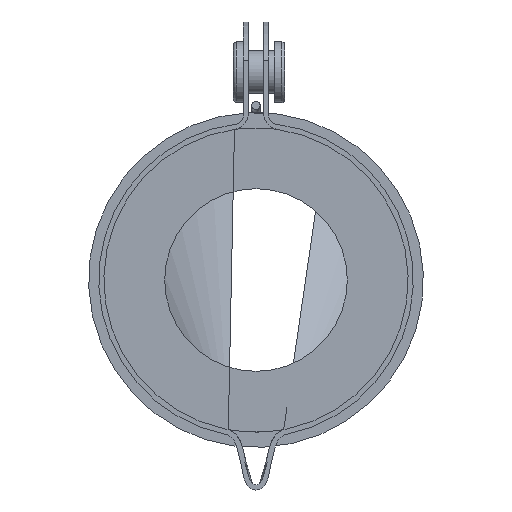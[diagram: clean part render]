
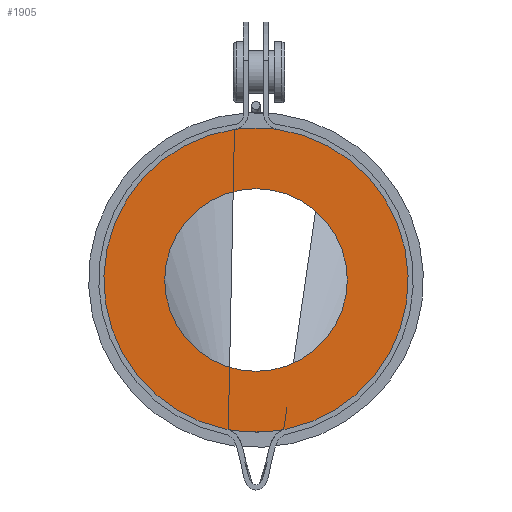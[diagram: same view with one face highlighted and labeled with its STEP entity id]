
A CAD part, front view. The second image highlights one B-rep face of the part: STEP entity #1905.
In plain terms, the highlighted planar face has unit normal (0, -1, 0).
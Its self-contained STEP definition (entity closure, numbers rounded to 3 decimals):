
#48=LINE($,#3117,#124);
#49=LINE($,#3124,#125);
#124=VECTOR($,#2494,0.099);
#125=VECTOR($,#2501,0.099);
#199=B_SPLINE_CURVE_WITH_KNOTS($,3,(#3105,#3106,#3107,#3108),
 .UNSPECIFIED.,.F.,.F.,(4,4),(0.,0.018),.UNSPECIFIED.);
#200=B_SPLINE_CURVE_WITH_KNOTS($,3,(#3112,#3113,#3114,#3115),
 .UNSPECIFIED.,.F.,.F.,(4,4),(0.126,0.143),
 .UNSPECIFIED.);
#295=FACE_BOUND($,#607,.T.);
#434=FACE_OUTER_BOUND($,#606,.T.);
#606=EDGE_LOOP($,(#1357,#1358,#1359,#1360,#1361,#1362,#1363,#1364));
#607=EDGE_LOOP($,(#1365));
#758=CIRCLE($,#2101,9.);
#763=CIRCLE($,#2108,15.);
#764=CIRCLE($,#2109,15.);
#765=CIRCLE($,#2110,15.);
#766=CIRCLE($,#2111,15.);
#887=VERTEX_POINT($,#3077);
#896=VERTEX_POINT($,#3103);
#897=VERTEX_POINT($,#3104);
#898=VERTEX_POINT($,#3109);
#899=VERTEX_POINT($,#3111);
#900=VERTEX_POINT($,#3116);
#901=VERTEX_POINT($,#3118);
#902=VERTEX_POINT($,#3120);
#903=VERTEX_POINT($,#3122);
#1065=EDGE_CURVE($,#887,#887,#758,.T.);
#1074=EDGE_CURVE($,#896,#897,#199,.T.);
#1075=EDGE_CURVE($,#897,#898,#763,.T.);
#1076=EDGE_CURVE($,#898,#899,#200,.T.);
#1077=EDGE_CURVE($,#899,#900,#48,.T.);
#1078=EDGE_CURVE($,#900,#901,#764,.T.);
#1079=EDGE_CURVE($,#901,#902,#765,.T.);
#1080=EDGE_CURVE($,#902,#903,#766,.T.);
#1081=EDGE_CURVE($,#903,#896,#49,.T.);
#1357=ORIENTED_EDGE($,*,*,#1074,.T.);
#1358=ORIENTED_EDGE($,*,*,#1075,.T.);
#1359=ORIENTED_EDGE($,*,*,#1076,.T.);
#1360=ORIENTED_EDGE($,*,*,#1077,.T.);
#1361=ORIENTED_EDGE($,*,*,#1078,.T.);
#1362=ORIENTED_EDGE($,*,*,#1079,.T.);
#1363=ORIENTED_EDGE($,*,*,#1080,.T.);
#1364=ORIENTED_EDGE($,*,*,#1081,.T.);
#1365=ORIENTED_EDGE($,*,*,#1065,.T.);
#1695=PLANE($,#2107);
#1905=ADVANCED_FACE($,(#434,#295),#1695,.T.);
#2101=AXIS2_PLACEMENT_3D($,#3078,#2476,#2477);
#2107=AXIS2_PLACEMENT_3D($,#3102,#2490,#2491);
#2108=AXIS2_PLACEMENT_3D($,#3110,#2492,#2493);
#2109=AXIS2_PLACEMENT_3D($,#3119,#2495,#2496);
#2110=AXIS2_PLACEMENT_3D($,#3121,#2497,#2498);
#2111=AXIS2_PLACEMENT_3D($,#3123,#2499,#2500);
#2476=DIRECTION('center_axis',(0.,1.,0.));
#2477=DIRECTION('ref_axis',(1.,0.,0.));
#2490=DIRECTION('center_axis',(0.,-1.,0.));
#2491=DIRECTION('ref_axis',(0.,0.,-1.));
#2492=DIRECTION('center_axis',(0.,-1.,0.));
#2493=DIRECTION('ref_axis',(1.,0.,0.));
#2494=DIRECTION($,(0.995,0.,0.097));
#2495=DIRECTION('center_axis',(0.,-1.,0.));
#2496=DIRECTION('ref_axis',(1.,0.,0.));
#2497=DIRECTION('center_axis',(0.,-1.,0.));
#2498=DIRECTION('ref_axis',(1.,0.,0.));
#2499=DIRECTION('center_axis',(0.,-1.,0.));
#2500=DIRECTION('ref_axis',(1.,0.,0.));
#2501=DIRECTION($,(0.995,0.,-0.097));
#3077=CARTESIAN_POINT('',(-9.,0.,0.));
#3078=CARTESIAN_POINT('Origin',(0.,0.,0.));
#3102=CARTESIAN_POINT('Origin',(0.,0.,0.));
#3103=CARTESIAN_POINT('',(-2.901,0.,-14.707));
#3104=CARTESIAN_POINT('',(-2.731,0.,-14.749));
#3105=CARTESIAN_POINT('Ctrl Pts',(-2.901,0.,-14.707));
#3106=CARTESIAN_POINT('Ctrl Pts',(-2.843,0.,-14.718));
#3107=CARTESIAN_POINT('Ctrl Pts',(-2.786,0.,-14.732));
#3108=CARTESIAN_POINT('Ctrl Pts',(-2.731,0.,-14.749));
#3109=CARTESIAN_POINT('',(2.731,0.,-14.749));
#3110=CARTESIAN_POINT('Origin',(0.,0.,0.));
#3111=CARTESIAN_POINT('',(2.901,0.,-14.707));
#3112=CARTESIAN_POINT('Ctrl Pts',(2.731,0.,
-14.75));
#3113=CARTESIAN_POINT('Ctrl Pts',(2.786,0.,
-14.732));
#3114=CARTESIAN_POINT('Ctrl Pts',(2.843,0.,
-14.718));
#3115=CARTESIAN_POINT('Ctrl Pts',(2.901,0.,
-14.707));
#3116=CARTESIAN_POINT('',(3.,0.,-14.697));
#3117=CARTESIAN_POINT($,(2.176,0.,-14.777));
#3118=CARTESIAN_POINT('',(2.123,0.,14.849));
#3119=CARTESIAN_POINT('Origin',(0.,0.,0.));
#3120=CARTESIAN_POINT('',(-2.123,0.,14.849));
#3121=CARTESIAN_POINT('Origin',(0.,0.,0.));
#3122=CARTESIAN_POINT('',(-3.,0.,-14.697));
#3123=CARTESIAN_POINT('Origin',(0.,0.,0.));
#3124=CARTESIAN_POINT($,(-2.176,0.,-14.777));
